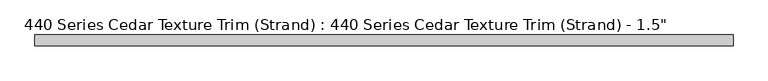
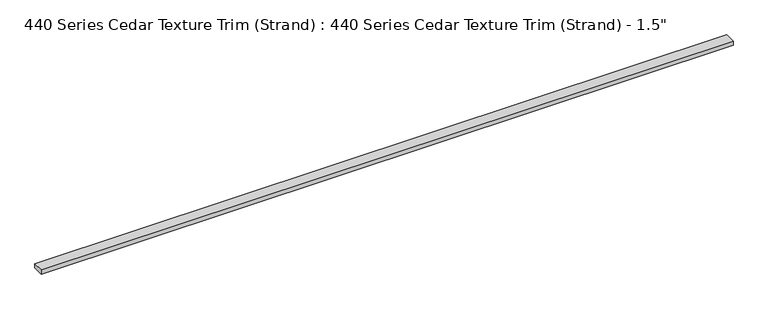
"""IFC4 building model written with IfcOpenShell, lengths in millimetres: proxy geometry."""

import ifcopenshell
import ifcopenshell.guid

model = None  # the IFC model being written
_history = None  # IfcOwnerHistory: only IFC2X3 demands one
_inside = {}  # id of a spatial element -> (the spatial element, [elements in it])
_under = {}  # id of a project, library or spatial element -> (it, [spatial elements below it])
_declared = {}  # id of a project -> (the project, [libraries it declares])
_typed = {}  # id of a type object -> (the type object, [elements of that type])
_made_of = {}  # id of a material, layer set ... -> (it, [elements and type objects made of it])


def new_model(schema):
    """Start an empty IFC model of exactly this schema.

    Asked for "IFC4X3", IfcOpenShell would pick the latest addendum, in which some entities
    have other attributes; the version numbers below select the first issue.
    IFC2X3 requires an IfcOwnerHistory on every rooted entity: one is made here for all.
    """
    global model, _history
    if schema == "IFC4X3":
        model = ifcopenshell.file(schema_version=(4, 3, 0, 0))
    else:
        model = ifcopenshell.file(schema=schema)
    _inside.clear()
    _under.clear()
    _declared.clear()
    _typed.clear()
    _made_of.clear()
    _history = None
    if model.schema == "IFC2X3":
        org = make("IfcOrganization", Name="unknown")
        user = make(
            "IfcPersonAndOrganization",
            ThePerson=make("IfcPerson", FamilyName="unknown"),
            TheOrganization=org,
        )
        app = make(
            "IfcApplication",
            ApplicationDeveloper=org,
            Version="unknown",
            ApplicationFullName="unknown",
            ApplicationIdentifier="unknown",
        )
        _history = make(
            "IfcOwnerHistory",
            OwningUser=user,
            OwningApplication=app,
            ChangeAction="ADDED",
            CreationDate=0,
        )
    return model


def make(cls, **values):
    """One entity of the class cls with the attributes given. An attribute that is None is left unset."""
    return model.create_entity(
        cls, **{name: value for name, value in values.items() if value is not None}
    )


def rooted(cls, **values):
    """An entity with a GlobalId (a new one), such as an element, a storey or a relation."""
    return make(cls, GlobalId=ifcopenshell.guid.new(), OwnerHistory=_history, **values)


def si_unit(unit_type, name, prefix=None):
    """IfcSIUnit, for example si_unit("LENGTHUNIT", "METRE", prefix="MILLI")."""
    return make("IfcSIUnit", UnitType=unit_type, Prefix=prefix, Name=name)


def assignment(units):
    """IfcUnitAssignment: the units of a project."""
    return None if units is None else make("IfcUnitAssignment", Units=units)


def point(xyz):
    """IfcCartesianPoint."""
    return None if xyz is None else make("IfcCartesianPoint", Coordinates=xyz)


def direction(xyz):
    """IfcDirection."""
    return None if xyz is None else make("IfcDirection", DirectionRatios=xyz)


def frame(location, z_axis=None, x_axis=None):
    """IfcAxis2Placement3D, a coordinate frame: its origin and axes. An axis left out is left unset."""
    return make(
        "IfcAxis2Placement3D",
        Location=point(location),
        Axis=direction(z_axis),
        RefDirection=direction(x_axis),
    )


def origin():
    """The frame at (0, 0, 0) with its axes left unset."""
    return frame((0.0, 0.0, 0.0))


def origin_with_axes():
    """The frame at (0, 0, 0) with the z axis (0, 0, 1) and the x axis (1, 0, 0) written out."""
    return frame((0.0, 0.0, 0.0), z_axis=(0.0, 0.0, 1.0), x_axis=(1.0, 0.0, 0.0))


def place(relative_to, where):
    """IfcLocalPlacement: puts the frame where relative to a parent placement (None: the world)."""
    return make(
        "IfcLocalPlacement", PlacementRelTo=relative_to, RelativePlacement=where
    )


def context(
    kind, dimensions, precision=None, world=None, true_north=None, identifier=None
):
    """IfcGeometricRepresentationContext, for example the 3D "Model" context."""
    return make(
        "IfcGeometricRepresentationContext",
        ContextIdentifier=identifier,
        ContextType=kind,
        CoordinateSpaceDimension=dimensions,
        Precision=precision,
        WorldCoordinateSystem=world,
        TrueNorth=true_north,
    )


def project(units=None, contexts=None):
    """IfcProject with its units and contexts."""
    return rooted(
        "IfcProject",
        Name="project",
        RepresentationContexts=contexts,
        UnitsInContext=assignment(units),
    )


def spatial(cls, under=None, at=None, **own):
    """A site, building, storey or space (cls), placed at a placement, below another one or the project."""
    s = rooted(cls, ObjectPlacement=at, **own)
    if under is not None:
        _under.setdefault(under.id(), (under, []))[1].append(s)
    return s


def polyline(points):
    """IfcPolyline through the points."""
    return make("IfcPolyline", Points=[point(p) for p in points])


def outline(outer, holes=None, kind="AREA"):
    """IfcArbitraryClosedProfileDef: a profile drawn as a closed curve; with holes, ...WithVoids."""
    if holes is None:
        return make("IfcArbitraryClosedProfileDef", ProfileType=kind, OuterCurve=outer)
    return make(
        "IfcArbitraryProfileDefWithVoids",
        ProfileType=kind,
        OuterCurve=outer,
        InnerCurves=holes,
    )


def extrude(swept, where, along, depth):
    """IfcExtrudedAreaSolid: the profile swept, set in the frame where, extruded along a direction by depth."""
    return make(
        "IfcExtrudedAreaSolid",
        SweptArea=swept,
        Position=where,
        ExtrudedDirection=direction(along),
        Depth=depth,
    )


def shape(context_of_items, identifier, shape_type, items):
    """IfcShapeRepresentation: the items that make up one representation, for example the "Body"."""
    return make(
        "IfcShapeRepresentation",
        ContextOfItems=context_of_items,
        RepresentationIdentifier=identifier,
        RepresentationType=shape_type,
        Items=items,
    )


def source(mapping_origin, context_of_items, identifier, shape_type, items):
    """IfcRepresentationMap: a shape defined once, which mapped items show again and again."""
    return make(
        "IfcRepresentationMap",
        MappingOrigin=mapping_origin,
        MappedRepresentation=shape(context_of_items, identifier, shape_type, items),
    )


def transform(
    local_origin,
    x_axis=None,
    y_axis=None,
    z_axis=None,
    scale=None,
    scale2=None,
    scale3=None,
    uniform=True,
):
    """IfcCartesianTransformationOperator3D, or its non-uniform kind. x_axis, y_axis, z_axis: its Axis1, 2, 3."""
    if uniform:
        return make(
            "IfcCartesianTransformationOperator3D",
            Axis1=direction(x_axis),
            Axis2=direction(y_axis),
            LocalOrigin=point(local_origin),
            Scale=scale,
            Axis3=direction(z_axis),
        )
    return make(
        "IfcCartesianTransformationOperator3DnonUniform",
        Axis1=direction(x_axis),
        Axis2=direction(y_axis),
        LocalOrigin=point(local_origin),
        Scale=scale,
        Axis3=direction(z_axis),
        Scale2=scale2,
        Scale3=scale3,
    )


def mapped(mapping_source, mapping_target):
    """IfcMappedItem: shows the shape of a source again, moved by a transform."""
    return make(
        "IfcMappedItem", MappingSource=mapping_source, MappingTarget=mapping_target
    )


def made_of(thing, what):
    """Note that an element or type object is made of a material, layer set ...; save() writes the relation."""
    if what is not None:
        _made_of.setdefault(what.id(), (what, []))[1].append(thing)
    return thing


def element(
    cls,
    number,
    at=None,
    inside=None,
    cuts=None,
    type_object=None,
    material=None,
    context=None,
    identifier="Body",
    shape_type=None,
    held_by="IfcProductDefinitionShape",
    body=None,
    shapes=None,
    **own,
):
    """One element of the class cls, such as IfcWall. Its Tag is "e" and its number.

    at: its placement. inside: the storey or other place that contains it. cuts: it is an
    opening in that element (IfcRelVoidsElement). A single representation is given by context,
    identifier, shape_type and body (its items); several are given by shapes. held_by: the class
    of the entity that holds the representations. save() writes the other relations.
    """
    e = rooted(cls, Tag="e%d" % number, ObjectPlacement=at, **own)
    if body is not None:
        shapes = [shape(context, identifier, shape_type, body)]
    if shapes is not None:
        e.Representation = make(held_by, Representations=shapes)
    if inside is not None:
        _inside.setdefault(inside.id(), (inside, []))[1].append(e)
    if cuts is not None:
        rooted(
            "IfcRelVoidsElement", RelatingBuildingElement=cuts, RelatedOpeningElement=e
        )
    if type_object is not None:
        _typed.setdefault(type_object.id(), (type_object, []))[1].append(e)
    return made_of(e, material)


def aggregate(whole, parts):
    """IfcRelAggregates: a whole, such as a stair, and the parts it consists of."""
    return rooted("IfcRelAggregates", RelatingObject=whole, RelatedObjects=parts)


def save(model, path):
    """Write the relations noted so far, then the file.

    IfcRelAggregates (storeys below a building ...), IfcRelContainedInSpatialStructure (elements
    in a storey), IfcRelDefinesByType, IfcRelAssociatesMaterial and IfcRelDeclares: one each for
    every whole, place, type object, material and project.
    """
    for whole, parts in _under.values():
        aggregate(whole, parts)
    for where, things in _inside.values():
        rooted(
            "IfcRelContainedInSpatialStructure",
            RelatedElements=things,
            RelatingStructure=where,
        )
    for kind, things in _typed.values():
        rooted("IfcRelDefinesByType", RelatedObjects=things, RelatingType=kind)
    for what, things in _made_of.values():
        rooted("IfcRelAssociatesMaterial", RelatedObjects=things, RelatingMaterial=what)
    for by, libraries in _declared.values():
        rooted("IfcRelDeclares", RelatingContext=by, RelatedDefinitions=libraries)
    model.write(path)


def proxy_ede324bd(model_context):
    return source(origin(), model_context, "Body", "SweptSolid", [
        extrude(outline(polyline([(2438.4, 0.0), (0.0, 0.0), (0.0, 38.1), (2438.4, 38.1), (2438.4, 0.0)])), origin_with_axes(), (0.0, 0.0, 1.0), 15.875),
    ])


if __name__ == "__main__":
    model = new_model("IFC4")
    model_context = context("Model", 3, world=origin())
    ifc_project = project(units=[si_unit("LENGTHUNIT", "METRE", prefix="MILLI")], contexts=[model_context])
    site = spatial("IfcSite", under=ifc_project)
    building = spatial("IfcBuilding", under=site)
    placement = place(None, origin())
    proxy_shape = proxy_ede324bd(model_context)
    element("IfcBuildingElementProxy", 1, Name="440 Series Cedar Texture Trim (Strand) : 440 Series Cedar Texture Trim (Strand) - 1.5\"", ObjectType="440 Series Cedar Texture Trim (Strand) : 440 Series Cedar Texture Trim (Strand) - 1.5\"", at=placement, inside=building, context=model_context, shape_type="MappedRepresentation", body=[
        mapped(proxy_shape, transform((0.0, 0.0, 0.0), x_axis=(1.0, 0.0, 0.0), y_axis=(0.0, 1.0, 0.0), z_axis=(0.0, 0.0, 1.0))),
    ])
    save(model, "model.ifc")
